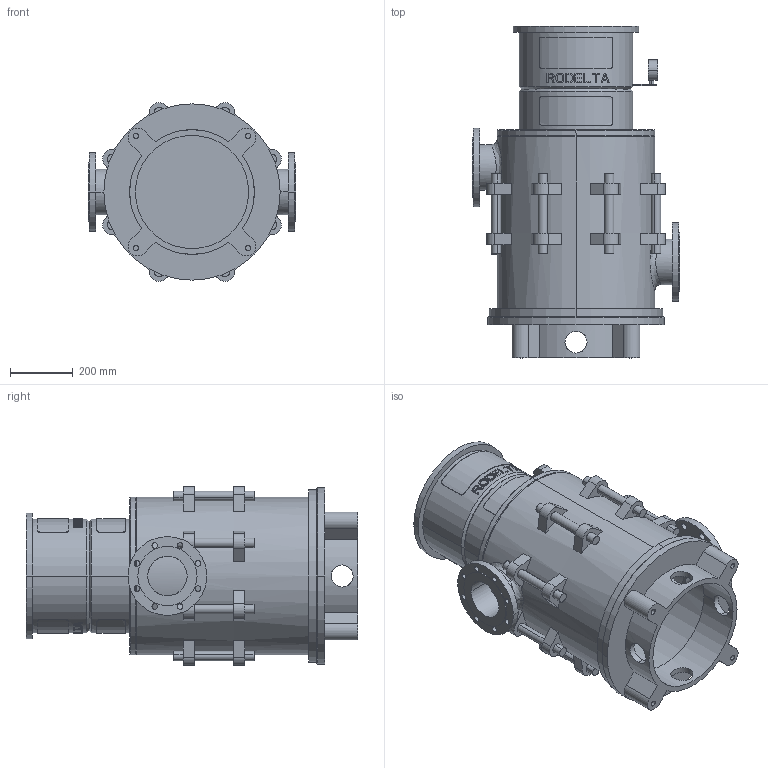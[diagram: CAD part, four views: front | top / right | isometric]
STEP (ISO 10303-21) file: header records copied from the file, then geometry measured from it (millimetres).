
FILE_DESCRIPTION((''),'2;1');
FILE_NAME('LS5_2TR_0GR_TOT_30KW','2023-08-08T',('Lyritlocal'),(''),'PRO/ENGINEER BY PARAMETRIC TECHNOLOGY CORPORATION, 2016360','PRO/ENGINEER BY PARAMETRIC TECHNOLOGY CORPORATION, 2016360','');
FILE_SCHEMA(('CONFIG_CONTROL_DESIGN'));
Length unit declared in the file: millimetre
Products named in the file (1): LS5_2TR_0GR_TOT_30KW
Bounding box: 660 x 1054 x 568.08 mm (x, y, z)
Volume: 32300204.8 mm3; surface area: 4434262.6 mm2
Topology: 3 solids, 7 shells, 672 faces, 1747 edges, 1158 vertices
Faces by surface type: plane 414, cylinder 242, cone 12, bspline 4
Entity records: 22016 total; most frequent: CARTESIAN_POINT 5572, ORIENTED_EDGE 3478, DIRECTION 3269, EDGE_CURVE 1747, AXIS2_PLACEMENT_3D 1241, VERTEX_POINT 1158, EDGE_LOOP 809, VECTOR 787
